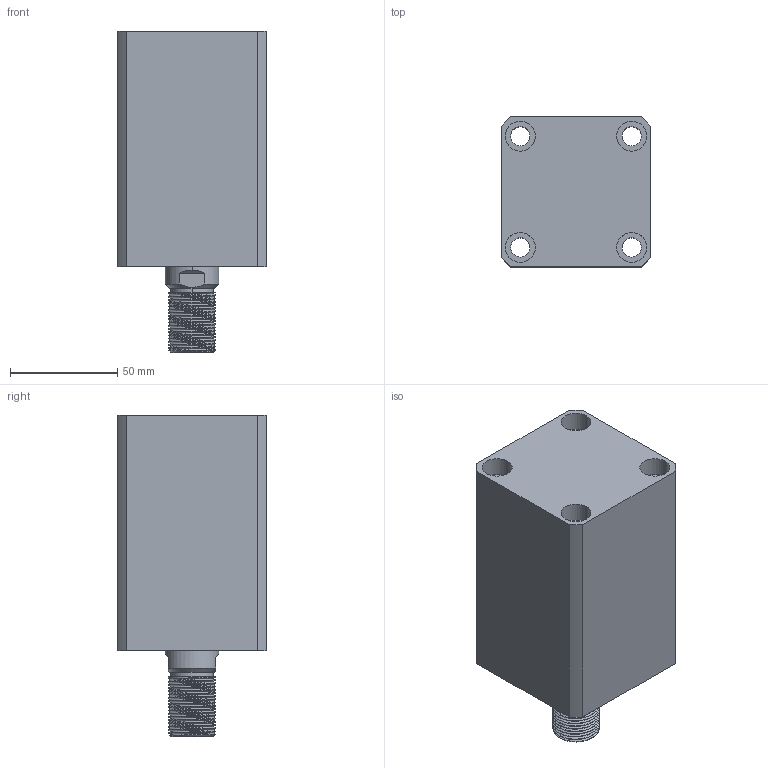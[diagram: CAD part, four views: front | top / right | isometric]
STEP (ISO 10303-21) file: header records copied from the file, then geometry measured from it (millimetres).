
FILE_DESCRIPTION (( 'STEP AP214' ), '1' );
FILE_NAME ('chtb-sd40x55w_asm.STEP', '2018-06-08T02:50:43', ( 'Windows' ), ( 'Microsoft' ), 'SwSTEP 2.0', 'SolidWorks 2015', '' );
FILE_SCHEMA (( 'AUTOMOTIVE_DESIGN' ));
Length unit declared in the file: millimetre
Products named in the file (4): CHTB-SD40QG; CHTB-SD40X55WHSG; CHTB-SD40X55NBT; chtb-sd40x55w_asm
Assembly tree (3 placements, depth 2):
  chtb-sd40x55w_asm
    CHTB-SD40X55NBT
    CHTB-SD40X55WHSG
    CHTB-SD40QG
Bounding box: 70 x 70 x 150 mm (x, y, z)
Volume: 467014.3 mm3; surface area: 93934.9 mm2
Topology: 3 solids, 4 shells, 203 faces, 533 edges, 355 vertices
Faces by surface type: cylinder 118, plane 40, bspline 16, cone 15, torus 14
Entity records: 13425 total; most frequent: CARTESIAN_POINT 8554, ORIENTED_EDGE 1054, DIRECTION 914, EDGE_CURVE 527, AXIS2_PLACEMENT_3D 380, VERTEX_POINT 355, EDGE_LOOP 240, FACE_OUTER_BOUND 203
